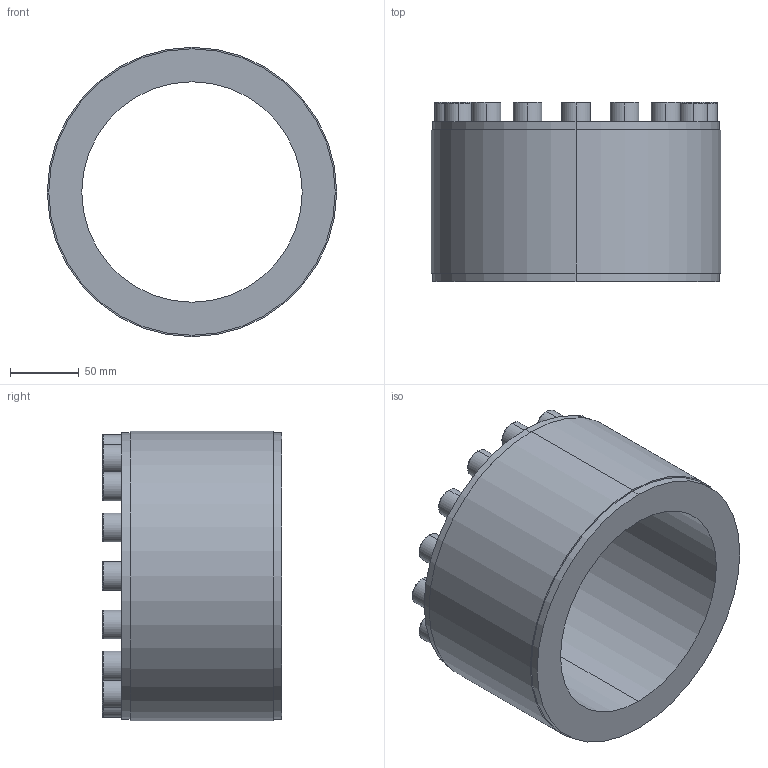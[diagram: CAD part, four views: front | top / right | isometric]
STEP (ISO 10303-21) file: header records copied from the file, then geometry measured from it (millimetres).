
FILE_DESCRIPTION (( 'STEP AP203' ), '1' );
FILE_NAME ('PL-D1 160-210.STEP', '2021-10-23T00:20:13', ( '' ), ( '' ), 'SwSTEP 2.0', 'SolidWorks 2018', '' );
FILE_SCHEMA (( 'CONFIG_CONTROL_DESIGN' ));
Length unit declared in the file: millimetre
Products named in the file (1): PL-D1 160-210
Bounding box: 210 x 130 x 210 mm (x, y, z)
Volume: 1741146.8 mm3; surface area: 183027 mm2
Topology: 1 solids, 1 shells, 204 faces, 472 edges, 304 vertices
Faces by surface type: plane 132, cylinder 40, torus 32
Entity records: 5845 total; most frequent: DIRECTION 1026, CARTESIAN_POINT 981, ORIENTED_EDGE 944, EDGE_CURVE 472, AXIS2_PLACEMENT_3D 349, LINE 328, VECTOR 328, VERTEX_POINT 304
